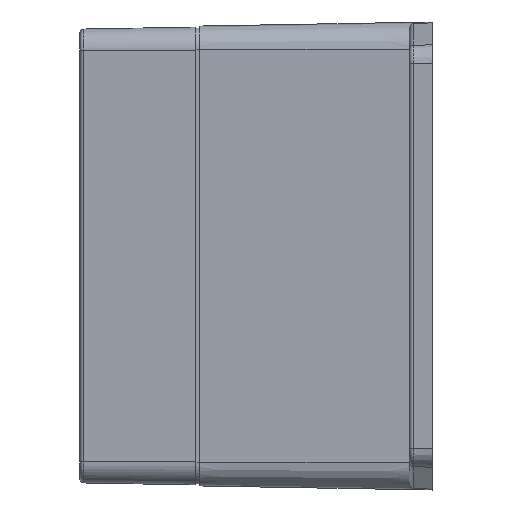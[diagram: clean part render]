
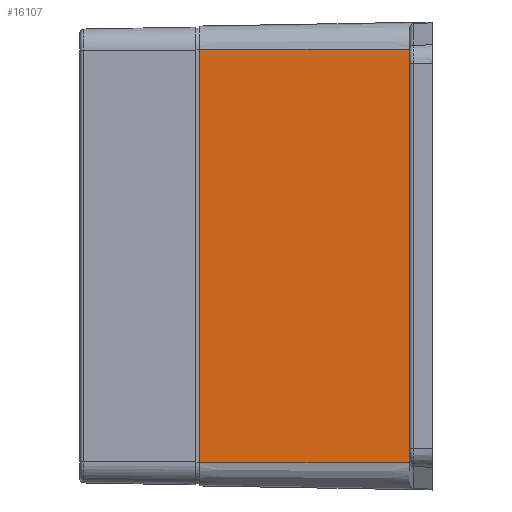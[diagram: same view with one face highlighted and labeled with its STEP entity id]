
A CAD part, left-side view. The second image highlights one B-rep face of the part: STEP entity #16107.
In plain terms, the highlighted planar face has unit normal (-1, 0.018, 0).
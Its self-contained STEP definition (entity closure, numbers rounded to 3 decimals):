
#1595 = ORIENTED_EDGE ( 'NONE', *, *, #23521, .T. ) ;
#1901 = CARTESIAN_POINT ( 'NONE',  ( -100.97, -55.71, 53.999 ) ) ;
#3819 = LINE ( 'NONE', #14854, #7363 ) ;
#4099 = DIRECTION ( 'NONE',  ( 0., 0., 1. ) ) ;
#5385 = CARTESIAN_POINT ( 'NONE',  ( -99.998, 0., 53.999 ) ) ;
#5636 = CARTESIAN_POINT ( 'NONE',  ( -100.97, -55.71, -53.999 ) ) ;
#5680 = CARTESIAN_POINT ( 'NONE',  ( -99.998, 0., -53.999 ) ) ;
#6762 = VECTOR ( 'NONE', #15469, 1000. ) ;
#7363 = VECTOR ( 'NONE', #4099, 1000. ) ;
#7603 = ORIENTED_EDGE ( 'NONE', *, *, #21618, .F. ) ;
#8013 = VERTEX_POINT ( 'NONE', #12543 ) ;
#8333 = VERTEX_POINT ( 'NONE', #22548 ) ;
#8776 = DIRECTION ( 'NONE',  ( -1., 0.017, 0. ) ) ;
#10283 = EDGE_CURVE ( 'NONE', #13114, #8333, #13922, .T. ) ;
#10394 = ORIENTED_EDGE ( 'NONE', *, *, #10283, .T. ) ;
#11896 = LINE ( 'NONE', #5680, #23803 ) ;
#12543 = CARTESIAN_POINT ( 'NONE',  ( -100.015, -0.995, -53.999 ) ) ;
#13114 = VERTEX_POINT ( 'NONE', #1901 ) ;
#13454 = PLANE ( 'NONE',  #13602 ) ;
#13602 = AXIS2_PLACEMENT_3D ( 'NONE', #21843, #8776, #19784 ) ;
#13922 = LINE ( 'NONE', #5385, #6762 ) ;
#14854 = CARTESIAN_POINT ( 'NONE',  ( -100.97, -55.71, 53.999 ) ) ;
#15119 = EDGE_CURVE ( 'NONE', #8333, #8013, #26357, .T. ) ;
#15469 = DIRECTION ( 'NONE',  ( 0.017, 1., 0. ) ) ;
#15866 = CARTESIAN_POINT ( 'NONE',  ( -100.015, -0.995, 53.999 ) ) ;
#16052 = ORIENTED_EDGE ( 'NONE', *, *, #15119, .T. ) ;
#16107 = ADVANCED_FACE ( 'NONE', ( #19253 ), #13454, .T. ) ;
#16617 = VECTOR ( 'NONE', #24289, 1000. ) ;
#19253 = FACE_OUTER_BOUND ( 'NONE', #26997, .T. ) ;
#19784 = DIRECTION ( 'NONE',  ( -0.017, -1., 0. ) ) ;
#20290 = DIRECTION ( 'NONE',  ( 0.017, 1., 0. ) ) ;
#20771 = VERTEX_POINT ( 'NONE', #5636 ) ;
#21618 = EDGE_CURVE ( 'NONE', #20771, #8013, #11896, .T. ) ;
#21843 = CARTESIAN_POINT ( 'NONE',  ( -99.998, 0., 53.999 ) ) ;
#22548 = CARTESIAN_POINT ( 'NONE',  ( -100.015, -0.995, 53.999 ) ) ;
#23521 = EDGE_CURVE ( 'NONE', #20771, #13114, #3819, .T. ) ;
#23803 = VECTOR ( 'NONE', #20290, 1000. ) ;
#24289 = DIRECTION ( 'NONE',  ( 0., 0., -1. ) ) ;
#26357 = LINE ( 'NONE', #15866, #16617 ) ;
#26997 = EDGE_LOOP ( 'NONE', ( #10394, #16052, #7603, #1595 ) ) ;
